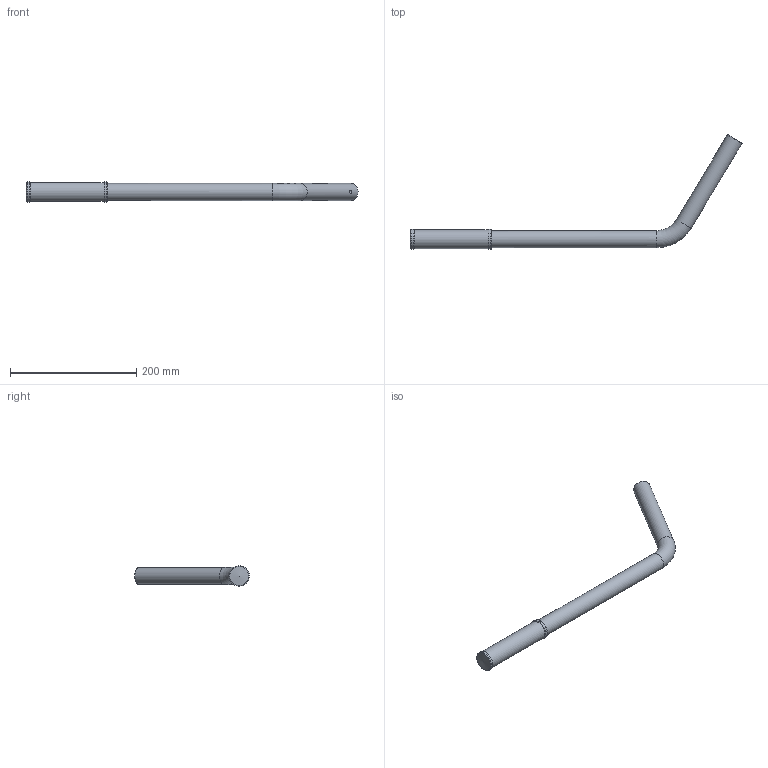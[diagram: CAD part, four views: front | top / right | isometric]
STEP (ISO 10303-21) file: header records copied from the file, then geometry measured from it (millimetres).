
FILE_DESCRIPTION((''),'2;1');
FILE_NAME('G:\HV_HYDRAULIC\AZIENDA_HV_HYDRAULIC\ARCHIVIO_DISEGNI\5_PRODOTTI_FINITI\5_LEVE\6800_LEVE\6800.0020_LT_27x600_pzb_(HV)\6800.0020.stp','2024-09-17T09:26:29',('christian.scardovi'),(''),'Autodesk Inventor 2013','Autodesk Inventor 2013','');
FILE_SCHEMA(('AUTOMOTIVE_DESIGN { 1 0 10303 214 1 1 1 1 }'));
Length unit declared in the file: millimetre
Products named in the file (1): 6800.0020
Bounding box: 525 x 181.23 x 31.93 mm (x, y, z)
Volume: 133868.9 mm3; surface area: 94798.9 mm2
Topology: 1 solids, 1 shells, 23 faces, 46 edges, 26 vertices
Faces by surface type: cylinder 8, torus 7, cone 5, plane 3
Full cylindrical faces by diameter (mm): 6 x1, 22 x2, 27 x2, 30 x1, 32 x2
Entity records: 556 total; most frequent: CARTESIAN_POINT 105, DIRECTION 90, ORIENTED_EDGE 46, AXIS2_PLACEMENT_3D 45, EDGE_LOOP 44, STYLED_ITEM 24, VERTEX_POINT 23, EDGE_CURVE 23
